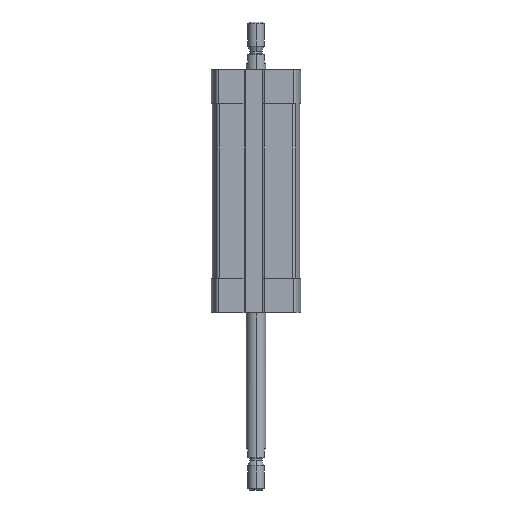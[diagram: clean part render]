
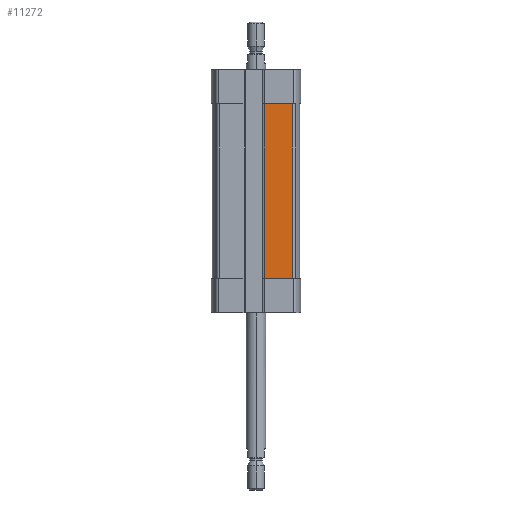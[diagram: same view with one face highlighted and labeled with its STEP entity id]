
A CAD part, left-side view. The second image highlights one B-rep face of the part: STEP entity #11272.
In plain terms, the highlighted planar face has unit normal (-1, 0, 0).
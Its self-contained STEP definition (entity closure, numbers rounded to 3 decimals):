
#462 = DIRECTION ( 'NONE',  ( -1., 0., 0. ) ) ;
#545 = ORIENTED_EDGE ( 'NONE', *, *, #8960, .F. ) ;
#711 = ORIENTED_EDGE ( 'NONE', *, *, #5744, .T. ) ;
#714 = LINE ( 'NONE', #2556, #8495 ) ;
#1029 = AXIS2_PLACEMENT_3D ( 'NONE', #6894, #462, #1478 ) ;
#1301 = PLANE ( 'NONE',  #1029 ) ;
#1478 = DIRECTION ( 'NONE',  ( 0., 0., 1. ) ) ;
#1904 = CARTESIAN_POINT ( 'NONE',  ( -13.5, -2.5, -64.5 ) ) ;
#2088 = VERTEX_POINT ( 'NONE', #9761 ) ;
#2129 = DIRECTION ( 'NONE',  ( 0., -1., 0. ) ) ;
#2412 = VECTOR ( 'NONE', #2129, 1000. ) ;
#2429 = LINE ( 'NONE', #6719, #8728 ) ;
#2556 = CARTESIAN_POINT ( 'NONE',  ( -13.5, -2.5, -64.5 ) ) ;
#3253 = FACE_OUTER_BOUND ( 'NONE', #4280, .T. ) ;
#3505 = DIRECTION ( 'NONE',  ( 0., 0., 1. ) ) ;
#3692 = CARTESIAN_POINT ( 'NONE',  ( -13.5, -11.329, -64.5 ) ) ;
#4280 = EDGE_LOOP ( 'NONE', ( #8634, #545, #8360, #711 ) ) ;
#4477 = LINE ( 'NONE', #3692, #4853 ) ;
#4540 = DIRECTION ( 'NONE',  ( 0., 0., 1. ) ) ;
#4853 = VECTOR ( 'NONE', #4540, 1000. ) ;
#5699 = LINE ( 'NONE', #1904, #2412 ) ;
#5744 = EDGE_CURVE ( 'NONE', #5895, #10519, #4477, .T. ) ;
#5895 = VERTEX_POINT ( 'NONE', #6567 ) ;
#5941 = DIRECTION ( 'NONE',  ( 0., -1., 0. ) ) ;
#6162 = CARTESIAN_POINT ( 'NONE',  ( -13.5, -2.5, -10.5 ) ) ;
#6567 = CARTESIAN_POINT ( 'NONE',  ( -13.5, -11.329, -64.5 ) ) ;
#6719 = CARTESIAN_POINT ( 'NONE',  ( -13.5, -2.5, -10.5 ) ) ;
#6894 = CARTESIAN_POINT ( 'NONE',  ( -13.5, -2.5, -64.5 ) ) ;
#8001 = EDGE_CURVE ( 'NONE', #10244, #10519, #2429, .T. ) ;
#8360 = ORIENTED_EDGE ( 'NONE', *, *, #9143, .T. ) ;
#8495 = VECTOR ( 'NONE', #3505, 1000. ) ;
#8634 = ORIENTED_EDGE ( 'NONE', *, *, #8001, .F. ) ;
#8728 = VECTOR ( 'NONE', #5941, 1000. ) ;
#8960 = EDGE_CURVE ( 'NONE', #2088, #10244, #714, .T. ) ;
#9143 = EDGE_CURVE ( 'NONE', #2088, #5895, #5699, .T. ) ;
#9485 = CARTESIAN_POINT ( 'NONE',  ( -13.5, -11.329, -10.5 ) ) ;
#9761 = CARTESIAN_POINT ( 'NONE',  ( -13.5, -2.5, -64.5 ) ) ;
#10244 = VERTEX_POINT ( 'NONE', #6162 ) ;
#10519 = VERTEX_POINT ( 'NONE', #9485 ) ;
#11272 = ADVANCED_FACE ( 'NONE', ( #3253 ), #1301, .T. ) ;
